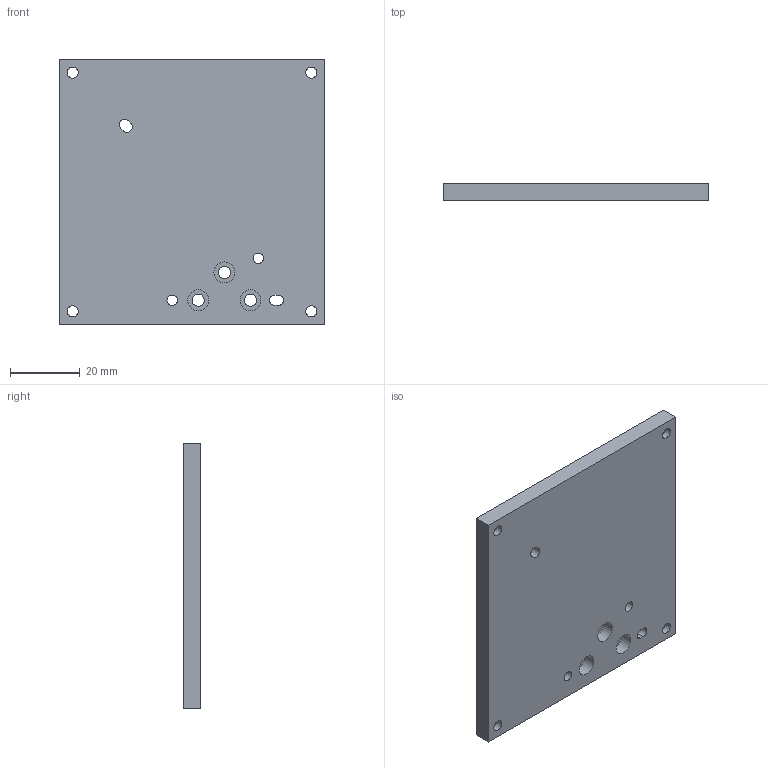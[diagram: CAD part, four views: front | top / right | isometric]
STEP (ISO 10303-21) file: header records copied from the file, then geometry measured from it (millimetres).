
FILE_DESCRIPTION(/* description */ (''),/* implementation_level */ '2;1');
FILE_NAME(/* name */ 'C:\Users\strothej\Documents\ActualDocuments\MicroscopeParts\TwoPhotonSystem\ScanningMechanics\v27\Drawings\Objective_Bracket.stp',/* time_stamp */ '2017-05-25T10:23:53-07:00',/* author */ ('strothej'),/* organization */ (''),/* preprocessor_version */ 'ST-DEVELOPER v16.1',/* originating_system */ 'Autodesk Inventor 2016',/* authorisation */ '');
FILE_SCHEMA (('AUTOMOTIVE_DESIGN { 1 0 10303 214 3 1 1 }'));
Length unit declared in the file: millimetre
Products named in the file (1): Objective_Bracket
Bounding box: 76.2 x 5 x 76.2 mm (x, y, z)
Volume: 28169.4 mm3; surface area: 13690.3 mm2
Topology: 1 solids, 1 shells, 37 faces, 84 edges, 56 vertices
Faces by surface type: cylinder 20, plane 17
Full cylindrical faces by diameter (mm): 3 x1, 3.035 x1, 3.2 x4, 3.5 x3, 5.5 x4, 6 x3
Entity records: 1046 total; most frequent: DIRECTION 184, CARTESIAN_POINT 162, ORIENTED_EDGE 136, EDGE_LOOP 82, AXIS2_PLACEMENT_3D 78, EDGE_CURVE 68, VERTEX_POINT 56, FACE_BOUND 45
